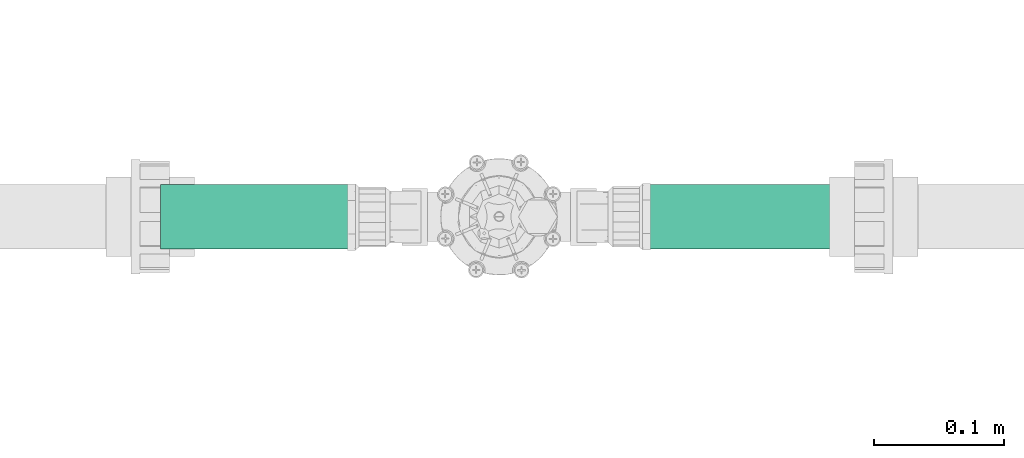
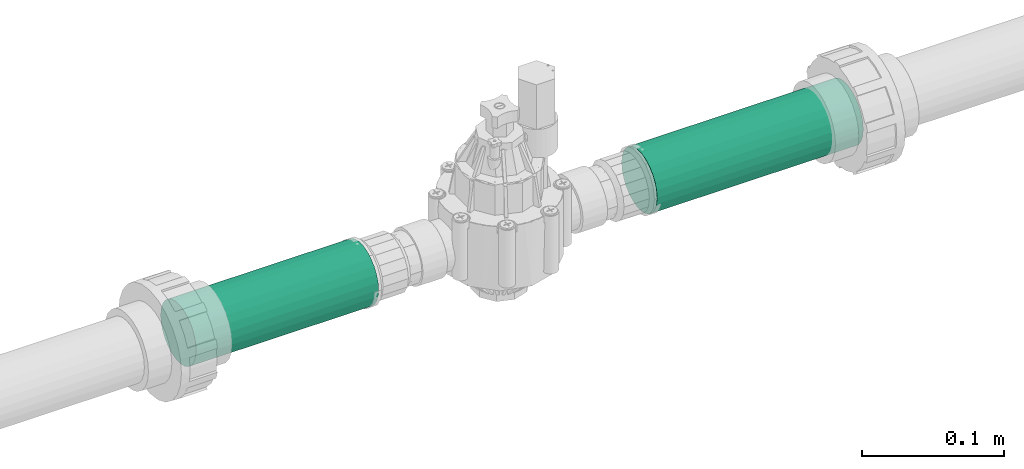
# One storey, part 73 of 166: 2 flow segments.
"""IFC2X3 building model written with IfcOpenShell, lengths in metres."""

from ifc_helpers import new_model, entity, si_unit, converted_unit, direction, frame, frame_2d, origin, place, context, subcontext, project, spatial, circle, extrude, type_object, element, save


model = new_model("IFC2X3")

# Units and contexts
model_context = context("Model", 3, precision=1e-05, world=origin(), true_north=direction((6.123233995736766e-17, 1.0)))
body_context = subcontext(model_context, "Body", "Model", "MODEL_VIEW")
ifc_project = project(units=[si_unit("LENGTHUNIT", "METRE"), converted_unit("PLANEANGLEUNIT", "DEGREE", entity("IfcPlaneAngleMeasure", 0.017453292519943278), si_unit("PLANEANGLEUNIT", "RADIAN"), dimensions=[0, 0, 0, 0, 0, 0, 0]), si_unit("AREAUNIT", "SQUARE_METRE")], contexts=[model_context])

# Site, building, storey
site_placement = place(None, origin())
site = spatial("IfcSite", under=ifc_project, at=site_placement, Name="Default", CompositionType="ELEMENT")
building_placement = place(site_placement, origin())
building = spatial("IfcBuilding", under=site, at=building_placement, Name="CASA DE ACOLHIDA PARA IDOSOS", CompositionType="ELEMENT")
storey_placement = place(building_placement, frame((0.0, 0.0, -1.7499999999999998)))
storey = spatial("IfcBuildingStorey", under=building, at=storey_placement, Name="IMPLANTAÇÃO DRENAGEM", CompositionType="ELEMENT", Elevation=-1.7499999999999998)

# Flow segments
pipe_segment_type = type_object("IfcPipeSegmentType", Name="Tipos de tubos:AF_Tubo Marrom Soldável", PredefinedType="NOTDEFINED")
flow_segment_1_placement = place(storey_placement, origin())
element("IfcFlowSegment", 1, at=flow_segment_1_placement, inside=storey, type_object=pipe_segment_type, Name="Tipos de tubos:AF_Tubo Marrom Soldável", ObjectType="Tipos de tubos:AF_Tubo Marrom Soldável", context=body_context, shape_type="SweptSolid", body=[
    extrude(circle(Radius=0.025, at=frame_2d((0.0, -2.707167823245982e-16), x_axis=(1.0, 0.0))), frame((-49.40045372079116, 9.654942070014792, -0.2000000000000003), z_axis=(1.0, 0.0, 0.0), x_axis=(0.0, -1.0, 0.0)), (0.0, 0.0, 1.0), 0.1483444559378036),
])
flow_segment_2_placement = place(storey_placement, origin())
element("IfcFlowSegment", 2, at=flow_segment_2_placement, inside=storey, type_object=pipe_segment_type, Name="Tipos de tubos:AF_Tubo Marrom Soldável", ObjectType="Tipos de tubos:AF_Tubo Marrom Soldável", context=body_context, shape_type="SweptSolid", body=[
    extrude(circle(Radius=0.025, at=frame_2d((0.0, -5.414335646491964e-16), x_axis=(1.0, 0.0))), frame((-49.02595966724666, 9.654942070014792, -0.2000000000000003), z_axis=(1.0, 0.0, 0.0), x_axis=(0.0, 1.0, 0.0)), (0.0, 0.0, 1.0), 0.16761805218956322),
])

save(model, "model.ifc")
